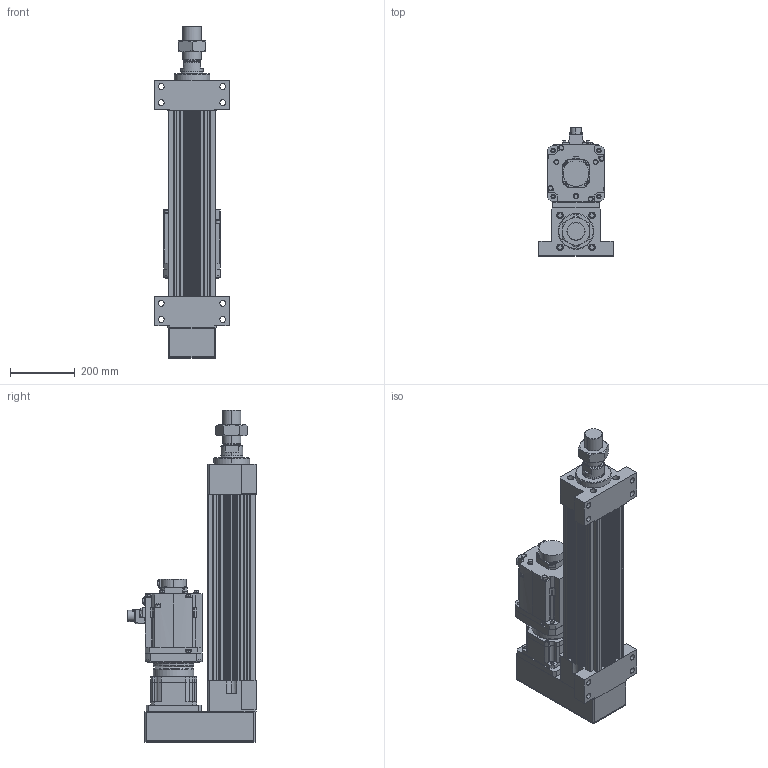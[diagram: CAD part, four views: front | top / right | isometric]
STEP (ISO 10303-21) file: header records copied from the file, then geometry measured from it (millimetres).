
FILE_DESCRIPTION (( 'STEP AP203' ), '1' );
FILE_NAME ('HES150NS(HS)-P300-W050G00-M-FFB.STEP', '2026-06-10T06:37:05', ( 'tms' ), ( '' ), 'SwSTEP 2.0', 'SolidWorks 2013', '' );
FILE_SCHEMA (( 'CONFIG_CONTROL_DESIGN' ));
Length unit declared in the file: millimetre
Products named in the file (9): HG-SR502B; M56X2.0P; AB1421; HES150-M-ROD-300; AB1423; HES150NS(HS)-P300-W050G00-M-FFB; HES150-P-G142; HES150-FFB-300; AB1422
Assembly tree (8 placements, depth 2):
  HES150NS(HS)-P300-W050G00-M-FFB
    HES150-FFB-300
    HES150-M-ROD-300
    M56X2.0P
    HES150-P-G142
    HG-SR502B
    AB1421
    AB1422
    AB1423
Bounding box: 230 x 395.85 x 1026 mm (x, y, z)
Volume: 19099833.7 mm3; surface area: 1907372.3 mm2
Topology: 5 solids, 19 shells, 1502 faces, 3922 edges, 2558 vertices
Faces by surface type: cylinder 698, plane 590, cone 132, bspline 76, torus 6
Entity records: 55282 total; most frequent: CARTESIAN_POINT 16792, DIRECTION 8058, ORIENTED_EDGE 7770, EDGE_CURVE 3907, AXIS2_PLACEMENT_3D 3049, VERTEX_POINT 2558, LINE 1960, VECTOR 1960
